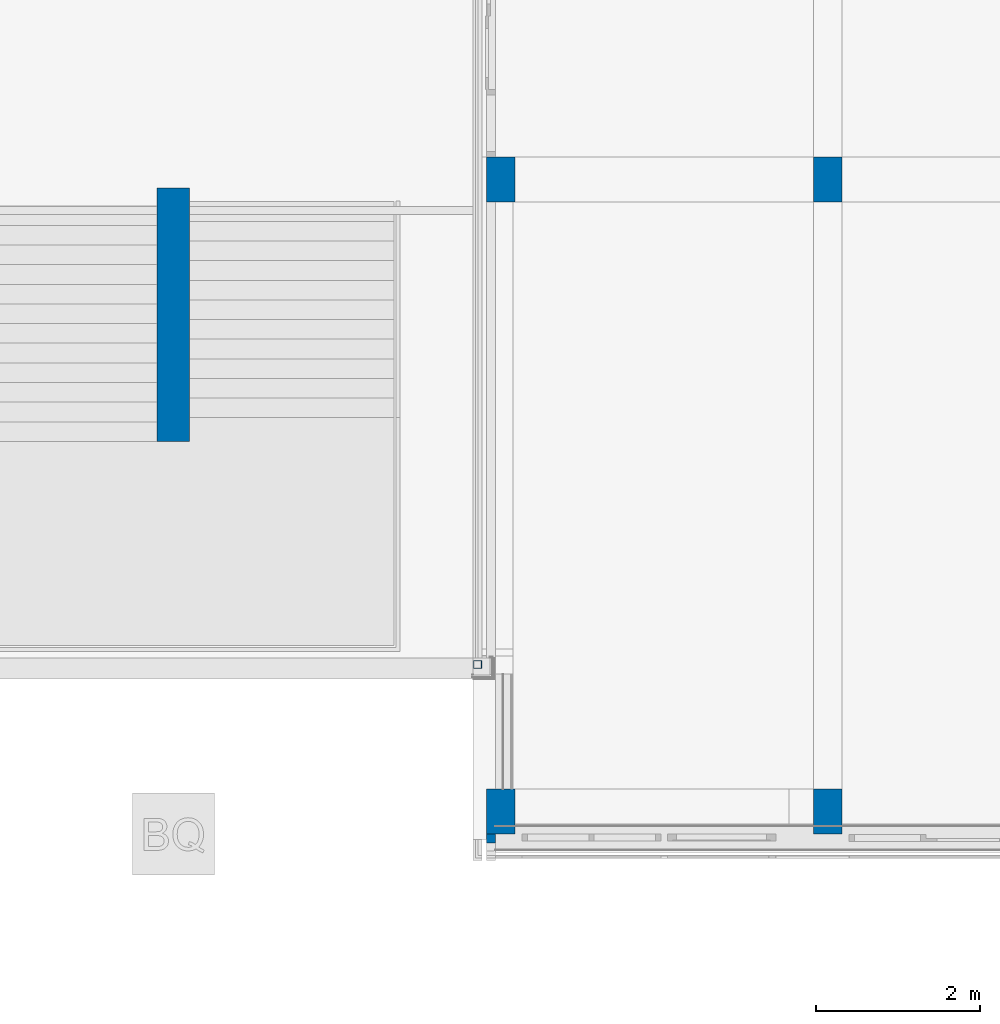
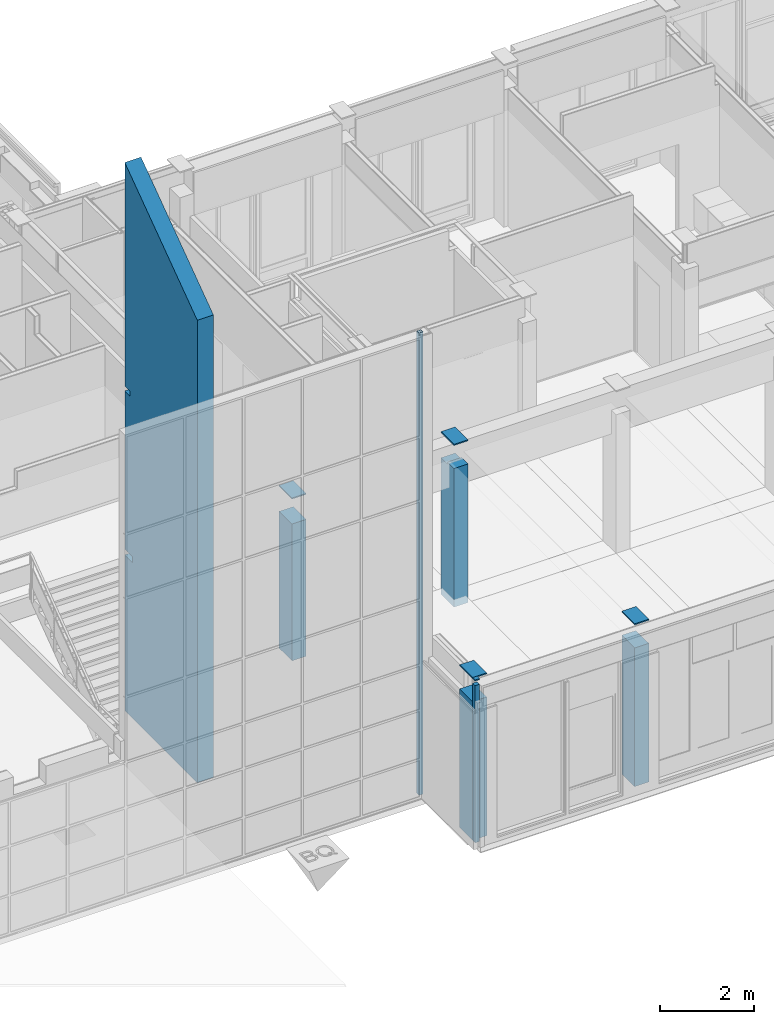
# One storey, part 3 of 109: 7 columns.
"""IFC2X3 building model written with IfcOpenShell, lengths in millimetres."""

from ifc_helpers import new_model, entity, si_unit, converted_unit, derived_unit, money_unit, direction, frame, origin_with_axes, place, context, subcontext, project, spatial, faceted_brep, material, type_object, element, save


model = new_model("IFC2X3")

# Units and contexts
model_context = context("Model", 3, precision=0.01, world=origin_with_axes(), true_north=direction((0.0, 1.0)))
body_context = subcontext(model_context, "Body", "Model", "MODEL_VIEW")
ifc_project = project(units=[si_unit("LENGTHUNIT", "METRE", prefix="MILLI"), si_unit("AREAUNIT", "SQUARE_METRE"), si_unit("VOLUMEUNIT", "CUBIC_METRE"), converted_unit("PLANEANGLEUNIT", "DEGREE", entity("IfcPlaneAngleMeasure", 0.0174532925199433), si_unit("PLANEANGLEUNIT", "RADIAN"), dimensions=[0, 0, 0, 0, 0, 0, 0]), money_unit("EUR"), converted_unit("TIMEUNIT", "Year", entity("IfcTimeMeasure", 31557600.0), si_unit("TIMEUNIT", "SECOND"), dimensions=[0, 0, 1, 0, 0, 0, 0]), si_unit("MASSUNIT", "GRAM", prefix="KILO"), si_unit("THERMODYNAMICTEMPERATUREUNIT", "DEGREE_CELSIUS"), si_unit("LUMINOUSINTENSITYUNIT", "LUMEN"), si_unit("ENERGYUNIT", "JOULE", prefix="MEGA"), derived_unit("THERMALCONDUCTANCEUNIT", [(si_unit("POWERUNIT", "WATT"), 1), (si_unit("LENGTHUNIT", "METRE"), -1), (si_unit("THERMODYNAMICTEMPERATUREUNIT", "KELVIN"), -1)]), derived_unit("SPECIFICHEATCAPACITYUNIT", [(si_unit("ENERGYUNIT", "JOULE"), 1), (si_unit("MASSUNIT", "GRAM", prefix="KILO"), -1), (si_unit("THERMODYNAMICTEMPERATUREUNIT", "KELVIN"), -1)]), derived_unit("MASSDENSITYUNIT", [(si_unit("MASSUNIT", "GRAM", prefix="KILO"), 1), (si_unit("VOLUMEUNIT", "CUBIC_METRE"), -1)])], contexts=[model_context])

# Site, building, storey
site_placement = place(None, origin_with_axes())
site = spatial("IfcSite", under=ifc_project, at=site_placement, Name="<site naam>", CompositionType="ELEMENT")
building_placement = place(site_placement, origin_with_axes())
building = spatial("IfcBuilding", under=site, at=building_placement, Name="<Naam gebouw>", CompositionType="ELEMENT")
storey_placement = place(building_placement, origin_with_axes())
storey = spatial("IfcBuildingStorey", under=building, at=storey_placement, Name="00 Begane grond", CompositionType="ELEMENT", Elevation=0.0)

# Columns
ifc_material_1 = material(Name="betonblok C")
column_type_1 = type_object("IfcColumnType", Name="betonblok C 350 x 550", PredefinedType="COLUMN")
column_1_placement = place(storey_placement, frame((12000.00000000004, 8000.000000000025, 0.0), z_axis=(0.0, 0.0, 1.0), x_axis=(1.0, 0.0, 0.0)))
element("IfcColumn", 1, at=column_1_placement, inside=storey, type_object=column_type_1, material=ifc_material_1, Name="28_Kolom_betonblok", ObjectType="COLUMN", context=body_context, shape_type="Brep", body=[
    faceted_brep([(-175.0000000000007, 274.9999999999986, 0.0), (-175.0000479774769, 274.9999999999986, 3570.0), (174.9999520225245, 275.0000000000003, 3570.0), (175.0000000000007, 275.0000000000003, 0.0), (-175.0000000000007, -275.0000000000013, 0.0), (-175.0000479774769, -275.0000460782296, 3570.0), (174.9999520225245, -275.0000460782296, 3570.0), (175.0000000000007, -275.0000000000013, 0.0)], [[[0, 1, 2, 3]], [[4, 5, 1, 0]], [[5, 6, 2, 1]], [[3, 2, 6, 7]], [[4, 0, 3, 7]], [[7, 6, 5, 4]]]),
    faceted_brep([(175.0000000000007, 275.0000000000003, 4250.0), (175.0000000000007, -275.0000000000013, 4250.0), (175.0000000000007, -275.0000000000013, 4220.0), (175.0000000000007, 275.0000000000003, 4220.0), (-175.0000000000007, -275.0000000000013, 4250.0), (-175.0000000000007, 274.9999999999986, 4250.0), (-175.0000000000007, -275.0000000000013, 4220.0), (-175.0000000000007, 274.9999999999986, 4220.0)], [[[0, 1, 2, 3]], [[4, 1, 0, 5]], [[1, 4, 6, 2]], [[2, 6, 7, 3]], [[5, 0, 3, 7]], [[4, 5, 7, 6]]]),
])
column_2_placement = place(storey_placement, frame((12000.00000000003, 275.0000000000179, 0.0), z_axis=(0.0, 0.0, 1.0), x_axis=(1.0, 0.0, 0.0)))
element("IfcColumn", 2, at=column_2_placement, inside=storey, type_object=column_type_1, material=ifc_material_1, Name="28_Kolom_betonblok", ObjectType="COLUMN", context=body_context, shape_type="Brep", body=[
    faceted_brep([(-175.0000000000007, 275.0000000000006, 0.0), (-174.9999999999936, 275.0000000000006, 3620.0), (175.0000000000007, 275.0000000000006, 3620.0), (175.0000000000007, 275.0000000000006, 0.0), (-175.0000000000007, -275.0000000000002, 0.0), (-174.9999999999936, -275.0000460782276, 3620.0), (175.0000000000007, -275.0000460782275, 3620.0), (175.0000000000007, -275.0000000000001, 0.0)], [[[0, 1, 2, 3]], [[4, 5, 1, 0]], [[5, 6, 2, 1]], [[3, 2, 6, 7]], [[4, 0, 3, 7]], [[7, 6, 5, 4]]]),
    faceted_brep([(175.0000000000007, 275.0000000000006, 4250.0), (175.0000000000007, -275.0000000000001, 4250.0), (175.0000000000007, -275.0000000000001, 4220.0), (175.0000000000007, 275.0000000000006, 4220.0), (-175.0000000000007, -275.0000000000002, 4250.0), (-175.0000000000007, 275.0000000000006, 4250.0), (-175.0000000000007, -275.0000000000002, 4220.0), (-175.0000000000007, 275.0000000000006, 4220.0)], [[[0, 1, 2, 3]], [[4, 1, 0, 5]], [[1, 4, 6, 2]], [[2, 6, 7, 3]], [[5, 0, 3, 7]], [[4, 5, 7, 6]]]),
])
column_3_placement = place(storey_placement, frame((16000.00000000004, 8000.000000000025, 0.0), z_axis=(0.0, 0.0, 1.0), x_axis=(1.0, 0.0, 0.0)))
element("IfcColumn", 3, at=column_3_placement, inside=storey, type_object=column_type_1, material=ifc_material_1, Name="28_Kolom_betonblok", ObjectType="COLUMN", context=body_context, shape_type="Brep", body=[
    faceted_brep([(-175.0000000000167, 0.0, 3570.0), (-175.0000000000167, 0.0, 3620.0), (174.9999999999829, 0.0, 3620.0), (174.9999999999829, 0.0, 3570.0), (-174.9999999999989, -275.0000000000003, 0.0), (-175.0000000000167, -275.0000000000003, 3620.0), (-175.0000000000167, 275.0000000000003, 3570.0), (-174.9999999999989, 275.0000000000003, 0.0), (174.9999999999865, -275.0000000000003, 3620.0), (175.0000000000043, -275.0000000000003, 0.0), (175.0000000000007, 275.0000000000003, 0.0), (174.9999999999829, 275.0000000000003, 3570.0)], [[[0, 1, 2, 3]], [[4, 5, 1, 0, 6, 7]], [[5, 8, 2, 1]], [[3, 2, 8, 9, 10, 11]], [[0, 3, 11, 6]], [[9, 8, 5, 4]], [[7, 6, 11, 10]], [[7, 10, 9, 4]]]),
    faceted_brep([(175.0000000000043, -275.0000000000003, 4250.0), (175.0000000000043, -275.0000000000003, 4220.0), (175.0000000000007, 275.0000000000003, 4220.0), (175.0000000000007, 275.0000000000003, 4250.0), (-174.9999999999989, -275.0000000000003, 4250.0), (-174.9999999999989, -275.0000000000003, 4220.0), (-174.9999999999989, 275.0000000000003, 4220.0), (-174.9999999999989, 275.0000000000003, 4250.0)], [[[0, 1, 2, 3]], [[4, 5, 1, 0]], [[5, 6, 2, 1]], [[3, 2, 6, 7]], [[3, 7, 4, 0]], [[7, 6, 5, 4]]]),
])
column_4_placement = place(storey_placement, frame((16000.00000000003, 275.0000000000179, 0.0), z_axis=(0.0, 0.0, 1.0), x_axis=(1.0, 0.0, 0.0)))
element("IfcColumn", 4, at=column_4_placement, inside=storey, type_object=column_type_1, material=ifc_material_1, Name="28_Kolom_betonblok", ObjectType="COLUMN", context=body_context, shape_type="Brep", body=[
    faceted_brep([(-175.0000000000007, 275.0000000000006, 0.0), (-175.0000000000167, 275.0000000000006, 3620.0), (174.9999999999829, 275.0000000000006, 3620.0), (175.0000000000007, 275.0000000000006, 0.0), (-175.0000000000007, -275.0000000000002, 0.0), (-175.0000000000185, -275.0000000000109, 3620.0), (174.9999999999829, -275.0000000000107, 3620.0), (175.0000000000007, -275.0000000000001, 0.0)], [[[0, 1, 2, 3]], [[4, 5, 1, 0]], [[5, 6, 2, 1]], [[3, 2, 6, 7]], [[0, 3, 7, 4]], [[7, 6, 5, 4]]]),
    faceted_brep([(175.0000000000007, -275.0000000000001, 4250.0), (175.0000000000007, -275.0000000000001, 4220.0), (175.0000000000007, 275.0000000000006, 4220.0), (175.0000000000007, 275.0000000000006, 4250.0), (-175.0000000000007, -275.0000000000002, 4250.0), (-175.0000000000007, -275.0000000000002, 4220.0), (-175.0000000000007, 275.0000000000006, 4220.0), (-175.0000000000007, 275.0000000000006, 4250.0)], [[[0, 1, 2, 3]], [[4, 5, 1, 0]], [[5, 6, 2, 1]], [[3, 2, 6, 7]], [[3, 7, 4, 0]], [[7, 6, 5, 4]]]),
])
column_type_2 = type_object("IfcColumnType", Name="betonblok C 400 x 3100", PredefinedType="COLUMN")
column_5_placement = place(storey_placement, frame((8000.000000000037, 6350.0, 0.0), z_axis=(0.0, 0.0, 1.0), x_axis=(1.0, 0.0, 0.0)))
element("IfcColumn", 5, at=column_5_placement, inside=storey, type_object=column_type_2, material=ifc_material_1, Name="28_Kolom_betonblok", ObjectType="COLUMN", context=body_context, shape_type="Brep", body=[
    faceted_brep([(-200.0006007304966, 1550.00000031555, 14310.000000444), (200.0006007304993, 1550.00000031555, 14310.000000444), (200.0006007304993, 1550.0, 8470.0), (-200.0006007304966, 1550.0, 8470.0), (200.0006007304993, -1549.999999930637, 12069.99874880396), (-200.0006007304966, -1549.999999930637, 12069.99874880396), (200.0006007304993, -1550.0, 0.0), (200.0006007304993, 1550.0, 0.0), (200.0006007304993, 1550.0, 4070.0), (200.0006007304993, 1221.534890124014, 4070.0), (200.0006007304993, 1221.534890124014, 4220.0), (200.0006007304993, 1550.0, 4220.0), (200.0006007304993, 1550.0, 8350.000000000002), (200.0006007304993, 1330.000000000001, 8350.000000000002), (200.0006007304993, 1330.000000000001, 8470.0), (-200.0006007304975, 1330.000000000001, 8470.0), (-200.0006007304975, 1330.000000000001, 8350.000000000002), (-200.0006007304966, 1550.0, 8350.000000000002), (-200.0006007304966, 1550.0, 4220.0), (-200.0006007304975, 1221.534890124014, 4220.0), (-200.0006007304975, 1221.534890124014, 4070.0), (-200.0006007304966, 1550.0, 4070.0), (-200.0006007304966, 1550.0, 0.0), (-200.0006007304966, -1550.0, 0.0)], [[[0, 1, 2, 3]], [[4, 1, 0, 5]], [[1, 4, 6, 7, 8, 9, 10, 11, 12, 13, 14, 2]], [[14, 15, 3, 2]], [[5, 0, 3, 15, 16, 17, 18, 19, 20, 21, 22, 23]], [[4, 5, 23, 6]], [[22, 7, 6, 23]], [[7, 22, 21, 8]], [[21, 20, 9, 8]], [[20, 19, 10, 9]], [[10, 19, 18, 11]], [[11, 18, 17, 12]], [[17, 16, 13, 12]], [[16, 15, 14, 13]]]),
])
ifc_material_2 = material(Name="staal C")
column_type_3 = type_object("IfcColumnType", Name="Profiel vierkant 100 x 100", PredefinedType="COLUMN")
column_6_placement = place(storey_placement, frame((11720.00172146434, 2073.982853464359, 0.0), z_axis=(0.0, 0.0, 1.0), x_axis=(1.0, 0.0, 0.0)))
element("IfcColumn", 6, at=column_6_placement, inside=storey, type_object=column_type_3, material=ifc_material_2, Name="28_Kolom_Profiel", ObjectType="COLUMN", context=body_context, shape_type="Brep", body=[
    faceted_brep([(-50.00172146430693, -50.00172146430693, 12059.99997031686), (-50.00172146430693, -50.00172146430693, 0.0), (50.00172146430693, -50.00172146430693, 0.0), (50.00172146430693, -50.00172146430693, 12059.99997031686), (-50.00172146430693, 50.00172146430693, 12059.99997031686), (-50.00172146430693, 50.00172146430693, 0.0), (50.00172146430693, 50.00172146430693, 0.0), (-42.00172138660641, 42.00172138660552, 0.0), (-42.00172138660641, -42.00172138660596, 0.0), (42.00172138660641, -42.00172138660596, 0.0), (42.00172138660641, 42.00172138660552, 0.0), (50.00172146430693, 50.00172146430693, 12059.99997031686), (42.00172138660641, -42.00172138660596, 12059.99997031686), (-42.00172138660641, -42.00172138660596, 12059.99997031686), (-42.00172138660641, 42.00172138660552, 12059.99997031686), (42.00172138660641, 42.00172138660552, 12059.99997031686)], [[[0, 1, 2, 3]], [[4, 5, 1, 0]], [[2, 1, 5, 6], [7, 8, 9, 10]], [[3, 2, 6, 11]], [[4, 0, 3, 11], [12, 13, 14, 15]], [[11, 6, 5, 4]], [[13, 8, 7, 14]], [[12, 9, 8, 13]], [[15, 10, 9, 12]], [[14, 7, 10, 15]]]),
])
column_type_4 = type_object("IfcColumnType", Name="betonblok C 110 x 108", PredefinedType="COLUMN")
column_7_placement = place(storey_placement, frame((11879.99997669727, -53.83731337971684, 0.0), z_axis=(0.0, 0.0, 1.0), x_axis=(1.0, 0.0, 0.0)))
element("IfcColumn", 7, at=column_7_placement, inside=storey, type_object=column_type_4, material=ifc_material_1, Name="28_Kolom_betonblok", ObjectType="COLUMN", context=body_context, shape_type="Brep", body=[
    faceted_brep([(54.99997669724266, 53.83731337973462, 0.0), (-54.99997669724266, 53.83731337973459, 0.0), (-54.99997669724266, 53.83731337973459, 4100.0), (54.99997669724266, 53.83731337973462, 4100.0), (-54.99997669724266, -53.83731337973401, 0.0), (54.99997669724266, -53.83731337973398, 0.0), (-54.99997669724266, -53.83731337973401, 4100.0), (54.99997669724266, -53.83731337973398, 4100.0)], [[[0, 1, 2, 3]], [[4, 1, 0, 5]], [[1, 4, 6, 2]], [[2, 6, 7, 3]], [[5, 0, 3, 7]], [[4, 5, 7, 6]]]),
    faceted_brep([(54.99997669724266, 53.83731337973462, 4250.0), (54.99997669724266, -53.83731337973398, 4250.0), (54.99997669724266, -53.83731337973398, 4220.0), (54.99997669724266, 53.83731337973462, 4220.0), (-54.99997669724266, -53.83731337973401, 4250.0), (-54.99997669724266, 53.83731337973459, 4250.0), (-54.99997669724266, -53.83731337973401, 4220.0), (-54.99997669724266, 53.83731337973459, 4220.0)], [[[0, 1, 2, 3]], [[4, 1, 0, 5]], [[1, 4, 6, 2]], [[2, 6, 7, 3]], [[5, 0, 3, 7]], [[4, 5, 7, 6]]]),
])

save(model, "model.ifc")
